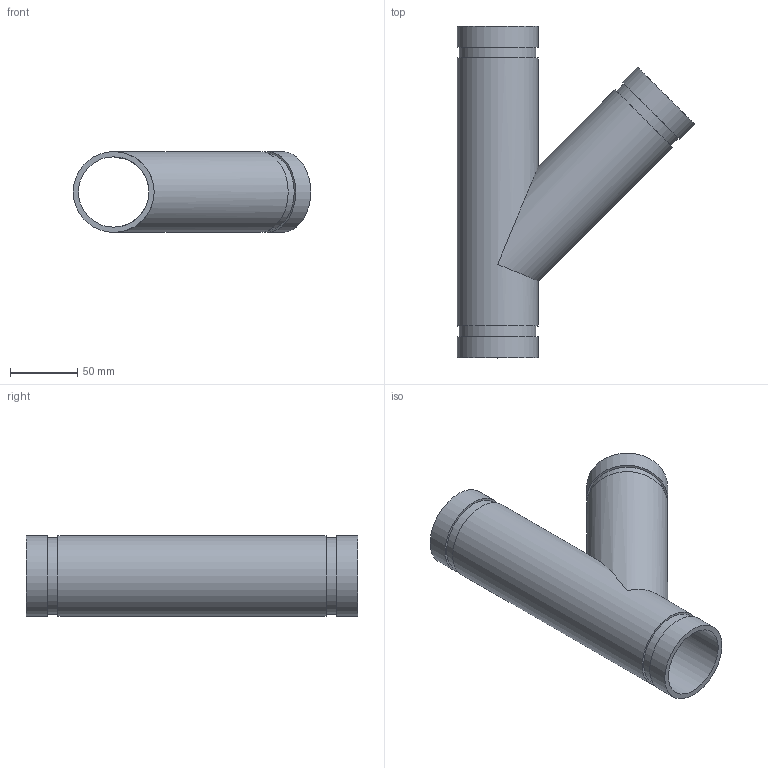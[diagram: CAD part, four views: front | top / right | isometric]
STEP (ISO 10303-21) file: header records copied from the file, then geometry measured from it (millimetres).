
FILE_DESCRIPTION(/* description */ ('VIC 45 DEG FABRICATED LATERAL No 30 SWS (OGS)','CAx-IF Rec.Pracs.---Representation and Presentation of Product Manufacturing Information (PMI)---4.0---2014-10-13'),/* implementation_level */ '2;1');
FILE_NAME(/* name */ 'C:\Users\kkamble\AppData\Roaming\Autodesk\ApplicationPlugins\Back Up\Victaulic_IPS_Lateral 45 Deg_No 30 SWS (OGS)\Victaulic_IPS_Lateral 45 Deg_No 30 SWS (OGS)_2 (50).stp',/* time_stamp */ '2020-09-16T22:20:31+06:00',/* author */ ('cgray'),/* organization */ ('Victaulic'),/* preprocessor_version */ 'ST-DEVELOPER v17.2',/* originating_system */ 'Autodesk Inventor 2019',/* authorisation */ '');
FILE_SCHEMA (('AP242_MANAGED_MODEL_BASED_3D_ENGINEERING_MIM_LF { 1 0 10303 442 1 1 4 }'));
Length unit declared in the file: inch
Products named in the file (1): 30 SWS-02.0
Bounding box: 177.21 x 247.65 x 60.33 mm (x, y, z)
Volume: 252687.9 mm3; surface area: 136313.4 mm2
Topology: 1 solids, 1 shells, 19 faces, 45 edges, 34 vertices
Faces by surface type: cylinder 10, plane 9
Full cylindrical faces by diameter (mm): 52.502 x2, 57.15 x3, 60.325 x5
Entity records: 748 total; most frequent: DIRECTION 145, CARTESIAN_POINT 116, ORIENTED_EDGE 90, AXIS2_PLACEMENT_3D 67, EDGE_CURVE 45, VERTEX_POINT 34, EDGE_LOOP 29, CIRCLE 27
